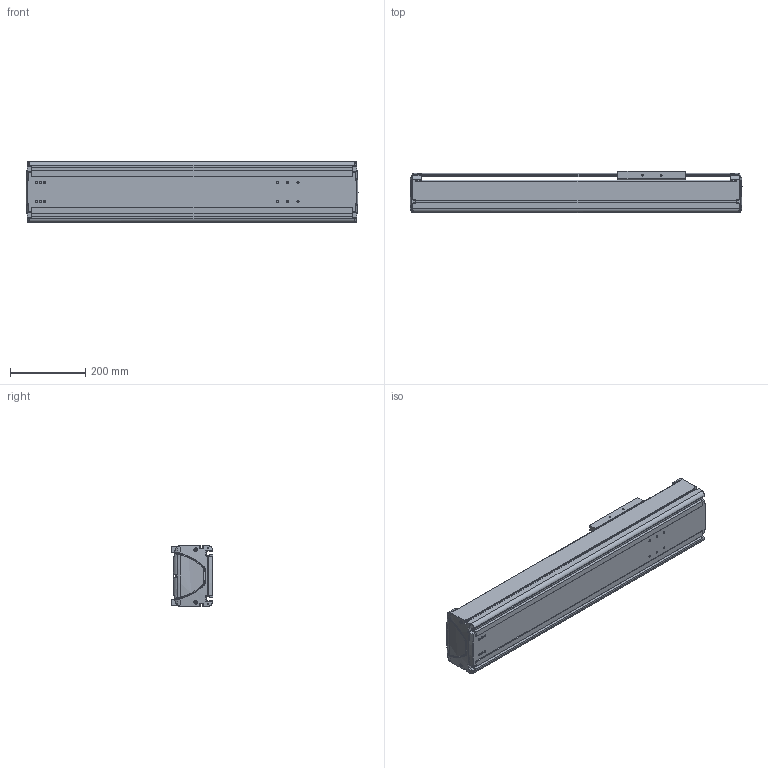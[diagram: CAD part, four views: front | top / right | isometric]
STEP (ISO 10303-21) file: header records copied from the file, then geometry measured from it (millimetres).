
FILE_DESCRIPTION((''),'2;1');
FILE_NAME('BE50G-ST-M_N-50_IGS_PRT','2017-06-18T',(' '),(''),'PRO/ENGINEER BY PARAMETRIC TECHNOLOGY CORPORATION, 2015030','PRO/ENGINEER BY PARAMETRIC TECHNOLOGY CORPORATION, 2015030','');
FILE_SCHEMA(('CONFIG_CONTROL_DESIGN'));
Length unit declared in the file: millimetre
Products named in the file (1): BE50G-ST-M_N-50_IGS_PRT
Bounding box: 879.98 x 110 x 160 mm (x, y, z)
Volume: 4148369.6 mm3; surface area: 1386507.9 mm2
Topology: 2 solids, 71 shells, 1536 faces, 4016 edges, 2565 vertices
Faces by surface type: cylinder 642, plane 609, bspline 102, torus 87, cone 56, sphere 40
Entity records: 52473 total; most frequent: CARTESIAN_POINT 15040, ORIENTED_EDGE 7708, DIRECTION 7690, EDGE_CURVE 3992, AXIS2_PLACEMENT_3D 2848, VERTEX_POINT 2563, VECTOR 1994, LINE 1994
